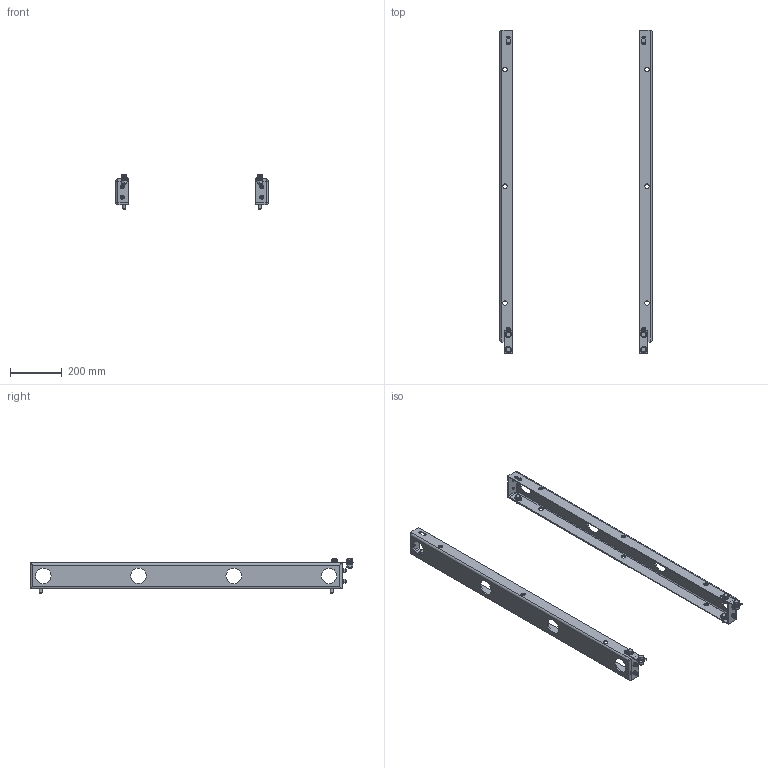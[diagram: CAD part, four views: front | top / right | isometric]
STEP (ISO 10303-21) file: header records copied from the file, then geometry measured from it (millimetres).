
FILE_DESCRIPTION(('STEP AP203'), '1');
FILE_NAME('3960 Êîìïëåêò äëÿ òðàíñïîðòèðîâêè', '', ('UNSPECIFIED'), ('UNSPECIFIED'), 'C3D Converter', 'C3D Toolkit', '');
FILE_SCHEMA(('CONFIG_CONTROL_DESIGN'));
Length unit declared in the file: millimetre
Products named in the file (12): 3960 СБ; 3961; 3962
Assembly tree (56 placements, depth 2):
  3960 СБ
    3961  x2
    3962  x2
    (unnamed)  x12
    (unnamed)  x8
    (unnamed)  x4
    (unnamed)  x4
    (unnamed)  x4
    (unnamed)  x8
    (unnamed)  x4
    (unnamed)  x4
    (unnamed)  x4
Bounding box: 587 x 1245 x 131.5 mm (x, y, z)
Volume: 1833828.9 mm3; surface area: 962868.1 mm2
Topology: 56 solids, 56 shells, 550 faces, 1280 edges, 868 vertices
Faces by surface type: plane 310, cylinder 164, cone 56, torus 12, sphere 8
Full cylindrical faces by diameter (mm): 6.647 x4, 8 x4, 9 x8, 10 x8, 10.106 x4, 12 x8, 13.5 x12, 14 x4, 16 x8, 17 x12, 24 x12, 60 x8
Entity records: 10277 total; most frequent: CARTESIAN_POINT 4873, DIRECTION 832, ORIENTED_EDGE 618, AXIS2_PLACEMENT_3D 346, EDGE_CURVE 309, EDGE_LOOP 248, VERTEX_POINT 223, FACE_BOUND 171
